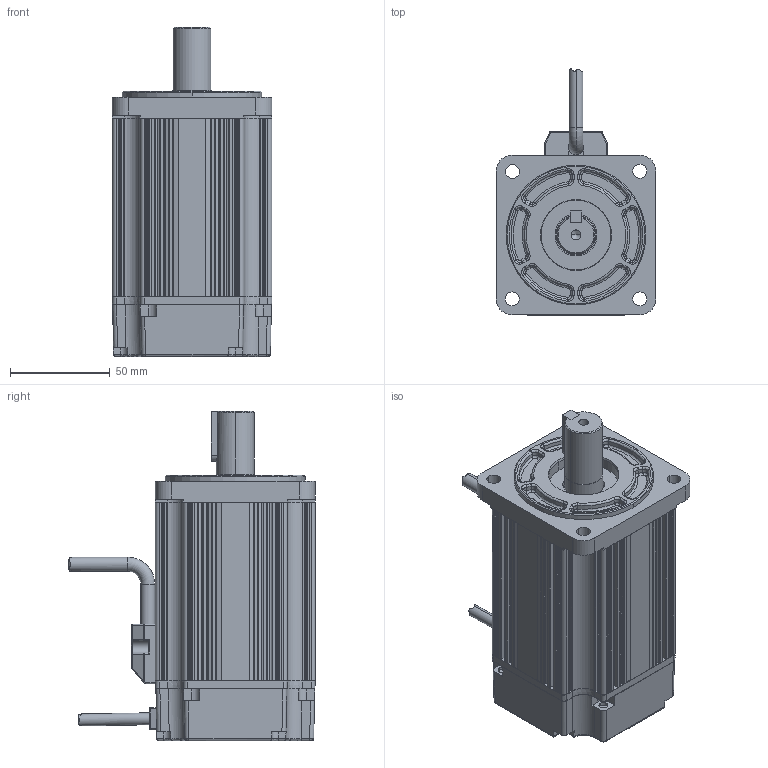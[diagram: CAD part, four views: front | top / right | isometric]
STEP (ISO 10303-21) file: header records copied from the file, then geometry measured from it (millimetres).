
FILE_DESCRIPTION (( 'STEP AP203' ), '1' );
FILE_NAME ('z80 750W Final.STEP', '2010-03-03T04:59:38', ( '' ), ( '' ), 'SwSTEP 2.0', 'SolidWorks 2011', '' );
FILE_SCHEMA (( 'CONFIG_CONTROL_DESIGN' ));
Length unit declared in the file: millimetre
Products named in the file (1): z80 750W Final
Bounding box: 80 x 123.36 x 165 mm (x, y, z)
Volume: 285110 mm3; surface area: 135744.8 mm2
Topology: 10 solids, 10 shells, 1153 faces, 2960 edges, 1831 vertices
Faces by surface type: cylinder 516, plane 362, bspline 193, cone 76, torus 6
Entity records: 39424 total; most frequent: CARTESIAN_POINT 11891, ORIENTED_EDGE 5880, DIRECTION 5707, EDGE_CURVE 2940, AXIS2_PLACEMENT_3D 2097, VERTEX_POINT 1831, VECTOR 1513, LINE 1513
